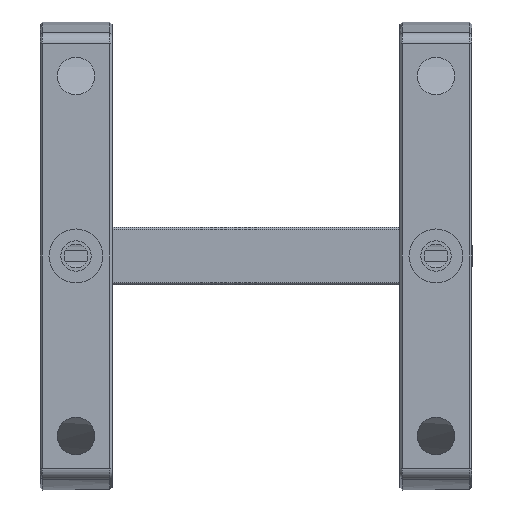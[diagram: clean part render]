
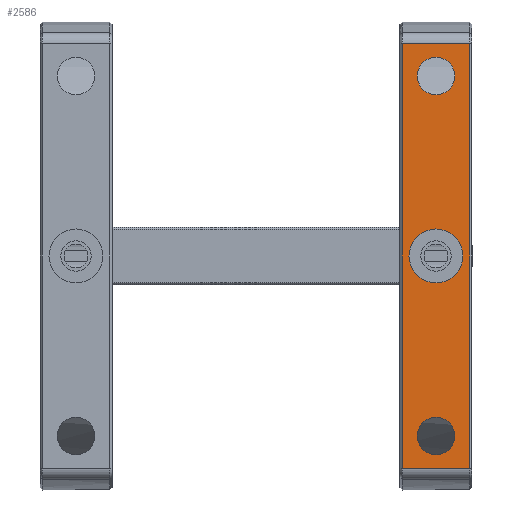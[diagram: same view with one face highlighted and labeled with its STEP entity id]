
A CAD part, front view. The second image highlights one B-rep face of the part: STEP entity #2586.
In plain terms, the highlighted planar face has unit normal (0, -1, 0).
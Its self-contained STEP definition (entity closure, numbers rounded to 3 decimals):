
#37 = DIRECTION ( 'NONE',  ( 0., 0., -1. ) ) ;
#54 = AXIS2_PLACEMENT_3D ( 'NONE', #4467, #1205, #4981 ) ;
#223 = AXIS2_PLACEMENT_3D ( 'NONE', #2380, #4296, #37 ) ;
#230 = CIRCLE ( 'NONE', #3735, 2.6 ) ;
#285 = VERTEX_POINT ( 'NONE', #6081 ) ;
#287 = ORIENTED_EDGE ( 'NONE', *, *, #3877, .F. ) ;
#302 = EDGE_CURVE ( 'NONE', #2904, #3052, #2606, .T. ) ;
#317 = DIRECTION ( 'NONE',  ( 0., -1., 0. ) ) ;
#375 = CARTESIAN_POINT ( 'NONE',  ( -41.5, -93., -22.4 ) ) ;
#472 = FACE_BOUND ( 'NONE', #4328, .T. ) ;
#478 = EDGE_CURVE ( 'NONE', #285, #4523, #5503, .T. ) ;
#709 = EDGE_CURVE ( 'NONE', #1807, #285, #3014, .T. ) ;
#795 = CARTESIAN_POINT ( 'NONE',  ( -41.5, -93., -25. ) ) ;
#860 = DIRECTION ( 'NONE',  ( 0., 0., -1. ) ) ;
#1020 = EDGE_CURVE ( 'NONE', #5556, #4692, #2840, .T. ) ;
#1122 = CARTESIAN_POINT ( 'NONE',  ( -46.2, -93., -31. ) ) ;
#1205 = DIRECTION ( 'NONE',  ( 0., -1., 0. ) ) ;
#1220 = CARTESIAN_POINT ( 'NONE',  ( -41.5, -93., 22.4 ) ) ;
#1371 = CARTESIAN_POINT ( 'NONE',  ( -41.5, -93., 25. ) ) ;
#1397 = ORIENTED_EDGE ( 'NONE', *, *, #3141, .T. ) ;
#1401 = ORIENTED_EDGE ( 'NONE', *, *, #1020, .F. ) ;
#1541 = AXIS2_PLACEMENT_3D ( 'NONE', #3886, #3251, #5828 ) ;
#1601 = ORIENTED_EDGE ( 'NONE', *, *, #302, .F. ) ;
#1807 = VERTEX_POINT ( 'NONE', #3721 ) ;
#1816 = DIRECTION ( 'NONE',  ( 1., 0., 0. ) ) ;
#1856 = EDGE_CURVE ( 'NONE', #4692, #5556, #230, .T. ) ;
#1986 = DIRECTION ( 'NONE',  ( -1., 0., 0. ) ) ;
#2005 = AXIS2_PLACEMENT_3D ( 'NONE', #5163, #317, #860 ) ;
#2186 = DIRECTION ( 'NONE',  ( 0., 0., -1. ) ) ;
#2301 = VERTEX_POINT ( 'NONE', #5235 ) ;
#2380 = CARTESIAN_POINT ( 'NONE',  ( -36.5, -93., -31. ) ) ;
#2399 = VERTEX_POINT ( 'NONE', #3834 ) ;
#2586 = ADVANCED_FACE ( 'NONE', ( #4798, #3351, #472, #4709 ), #4321, .F. ) ;
#2587 = ORIENTED_EDGE ( 'NONE', *, *, #4066, .F. ) ;
#2606 = CIRCLE ( 'NONE', #2005, 3.75 ) ;
#2649 = CIRCLE ( 'NONE', #54, 2.6 ) ;
#2681 = DIRECTION ( 'NONE',  ( 0., -1., 0. ) ) ;
#2840 = CIRCLE ( 'NONE', #3039, 2.6 ) ;
#2904 = VERTEX_POINT ( 'NONE', #3192 ) ;
#2964 = ORIENTED_EDGE ( 'NONE', *, *, #709, .T. ) ;
#2989 = EDGE_LOOP ( 'NONE', ( #2587, #287 ) ) ;
#2990 = CARTESIAN_POINT ( 'NONE',  ( -41.5, -93., 27.6 ) ) ;
#2996 = VERTEX_POINT ( 'NONE', #375 ) ;
#3014 = LINE ( 'NONE', #4942, #5347 ) ;
#3030 = VECTOR ( 'NONE', #2186, 1000. ) ;
#3039 = AXIS2_PLACEMENT_3D ( 'NONE', #1371, #5198, #4301 ) ;
#3052 = VERTEX_POINT ( 'NONE', #6158 ) ;
#3141 = EDGE_CURVE ( 'NONE', #4523, #2301, #3843, .T. ) ;
#3151 = VECTOR ( 'NONE', #4096, 1000. ) ;
#3192 = CARTESIAN_POINT ( 'NONE',  ( -41.5, -93., 3.75 ) ) ;
#3251 = DIRECTION ( 'NONE',  ( 0., -1., 0. ) ) ;
#3351 = FACE_BOUND ( 'NONE', #2989, .T. ) ;
#3369 = ORIENTED_EDGE ( 'NONE', *, *, #3501, .F. ) ;
#3501 = EDGE_CURVE ( 'NONE', #3052, #2904, #6169, .T. ) ;
#3553 = AXIS2_PLACEMENT_3D ( 'NONE', #795, #2681, #3650 ) ;
#3626 = LINE ( 'NONE', #3996, #3151 ) ;
#3650 = DIRECTION ( 'NONE',  ( 0., 0., 1. ) ) ;
#3721 = CARTESIAN_POINT ( 'NONE',  ( -36.8, -93., 29.5 ) ) ;
#3735 = AXIS2_PLACEMENT_3D ( 'NONE', #4227, #6157, #5696 ) ;
#3813 = EDGE_LOOP ( 'NONE', ( #2964, #4601, #1397, #4597 ) ) ;
#3834 = CARTESIAN_POINT ( 'NONE',  ( -41.5, -93., -27.6 ) ) ;
#3843 = LINE ( 'NONE', #5785, #5663 ) ;
#3877 = EDGE_CURVE ( 'NONE', #2996, #2399, #2649, .T. ) ;
#3886 = CARTESIAN_POINT ( 'NONE',  ( -41.5, -93., 0. ) ) ;
#3996 = CARTESIAN_POINT ( 'NONE',  ( -36.8, -93., 29.5 ) ) ;
#4066 = EDGE_CURVE ( 'NONE', #2399, #2996, #5476, .T. ) ;
#4096 = DIRECTION ( 'NONE',  ( 0., 0., 1. ) ) ;
#4227 = CARTESIAN_POINT ( 'NONE',  ( -41.5, -93., 25. ) ) ;
#4296 = DIRECTION ( 'NONE',  ( 0., 1., 0. ) ) ;
#4301 = DIRECTION ( 'NONE',  ( 0., 0., -1. ) ) ;
#4321 = PLANE ( 'NONE',  #223 ) ;
#4328 = EDGE_LOOP ( 'NONE', ( #3369, #1601 ) ) ;
#4416 = ORIENTED_EDGE ( 'NONE', *, *, #1856, .F. ) ;
#4467 = CARTESIAN_POINT ( 'NONE',  ( -41.5, -93., -25. ) ) ;
#4523 = VERTEX_POINT ( 'NONE', #5157 ) ;
#4597 = ORIENTED_EDGE ( 'NONE', *, *, #5042, .T. ) ;
#4601 = ORIENTED_EDGE ( 'NONE', *, *, #478, .T. ) ;
#4692 = VERTEX_POINT ( 'NONE', #1220 ) ;
#4709 = FACE_OUTER_BOUND ( 'NONE', #3813, .T. ) ;
#4798 = FACE_BOUND ( 'NONE', #5046, .T. ) ;
#4942 = CARTESIAN_POINT ( 'NONE',  ( -36.5, -93., 29.5 ) ) ;
#4981 = DIRECTION ( 'NONE',  ( 0., 0., 1. ) ) ;
#5042 = EDGE_CURVE ( 'NONE', #2301, #1807, #3626, .T. ) ;
#5046 = EDGE_LOOP ( 'NONE', ( #4416, #1401 ) ) ;
#5157 = CARTESIAN_POINT ( 'NONE',  ( -46.2, -93., -29.5 ) ) ;
#5163 = CARTESIAN_POINT ( 'NONE',  ( -41.5, -93., 0. ) ) ;
#5198 = DIRECTION ( 'NONE',  ( 0., -1., 0. ) ) ;
#5235 = CARTESIAN_POINT ( 'NONE',  ( -36.8, -93., -29.5 ) ) ;
#5347 = VECTOR ( 'NONE', #1986, 1000. ) ;
#5476 = CIRCLE ( 'NONE', #3553, 2.6 ) ;
#5503 = LINE ( 'NONE', #1122, #3030 ) ;
#5556 = VERTEX_POINT ( 'NONE', #2990 ) ;
#5663 = VECTOR ( 'NONE', #1816, 1000. ) ;
#5696 = DIRECTION ( 'NONE',  ( 0., 0., -1. ) ) ;
#5785 = CARTESIAN_POINT ( 'NONE',  ( -36.5, -93., -29.5 ) ) ;
#5828 = DIRECTION ( 'NONE',  ( 0., 0., -1. ) ) ;
#6081 = CARTESIAN_POINT ( 'NONE',  ( -46.2, -93., 29.5 ) ) ;
#6157 = DIRECTION ( 'NONE',  ( 0., -1., 0. ) ) ;
#6158 = CARTESIAN_POINT ( 'NONE',  ( -41.5, -93., -3.75 ) ) ;
#6169 = CIRCLE ( 'NONE', #1541, 3.75 ) ;
